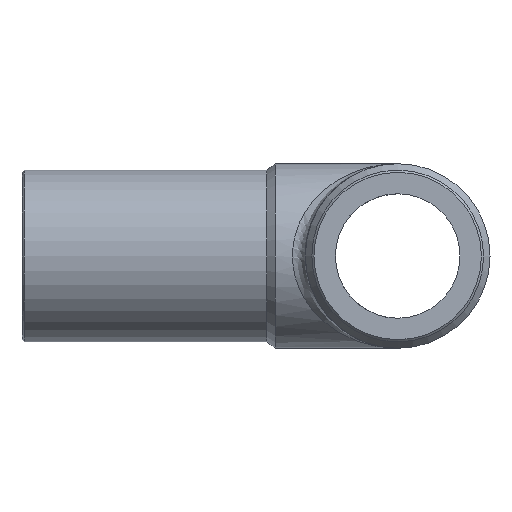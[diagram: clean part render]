
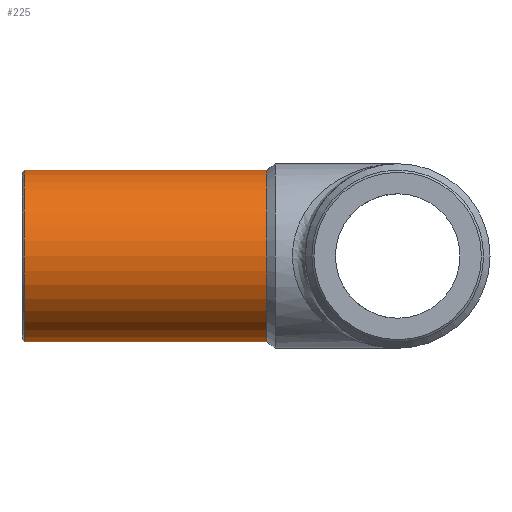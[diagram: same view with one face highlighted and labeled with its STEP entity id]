
A CAD part, left-side view. The second image highlights one B-rep face of the part: STEP entity #225.
In plain terms, the highlighted cylindrical face has radius 20 mm (diameter 40 mm), a full revolution.
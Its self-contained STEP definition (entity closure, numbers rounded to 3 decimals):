
#44=CIRCLE('',#275,20.);
#45=CIRCLE('',#277,20.);
#76=ORIENTED_EDGE('',*,*,#108,.T.);
#77=ORIENTED_EDGE('',*,*,#107,.F.);
#107=EDGE_CURVE('',#126,#126,#44,.T.);
#108=EDGE_CURVE('',#127,#127,#45,.F.);
#126=VERTEX_POINT('',#407);
#127=VERTEX_POINT('',#410);
#160=EDGE_LOOP('',(#76));
#161=EDGE_LOOP('',(#77));
#196=FACE_BOUND('',#160,.T.);
#197=FACE_BOUND('',#161,.T.);
#212=CYLINDRICAL_SURFACE('',#276,20.);
#225=ADVANCED_FACE('',(#196,#197),#212,.T.);
#275=AXIS2_PLACEMENT_3D('',#406,#345,#346);
#276=AXIS2_PLACEMENT_3D('',#408,#347,#348);
#277=AXIS2_PLACEMENT_3D('',#409,#349,#350);
#345=DIRECTION('',(0.,-1.,0.));
#346=DIRECTION('',(1.,0.,0.));
#347=DIRECTION('',(0.,-1.,0.));
#348=DIRECTION('',(1.,0.,0.));
#349=DIRECTION('',(0.,1.,0.));
#350=DIRECTION('',(-1.,0.,0.));
#406=CARTESIAN_POINT('',(0.,30.5,0.));
#407=CARTESIAN_POINT('',(20.,30.5,0.));
#408=CARTESIAN_POINT('',(0.,0.,0.));
#409=CARTESIAN_POINT('',(0.,87.,0.));
#410=CARTESIAN_POINT('',(-20.,87.,0.));
